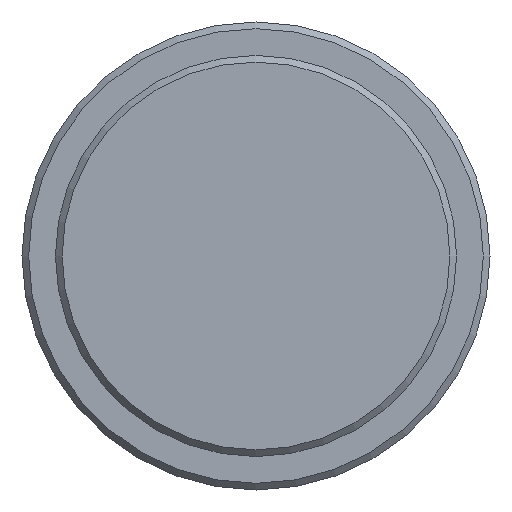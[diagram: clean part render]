
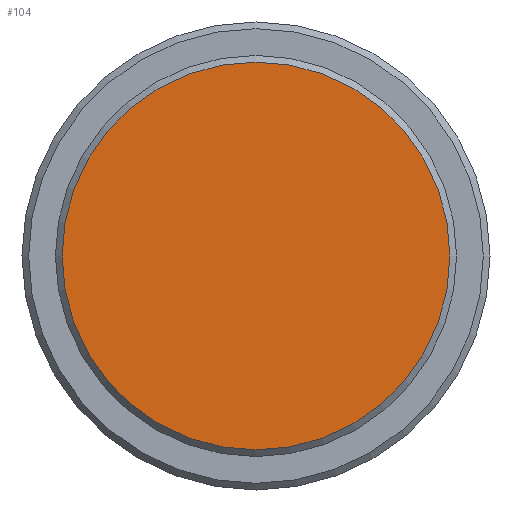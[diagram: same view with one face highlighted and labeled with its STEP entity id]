
A CAD part, front view. The second image highlights one B-rep face of the part: STEP entity #104.
In plain terms, the highlighted planar face has unit normal (0, -1, 0).
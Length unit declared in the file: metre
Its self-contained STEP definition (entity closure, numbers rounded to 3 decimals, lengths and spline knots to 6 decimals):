
#104 = ADVANCED_FACE( '', ( #187 ), #188, .T. );
#187 = FACE_OUTER_BOUND( '', #269, .T. );
#188 = PLANE( '', #270 );
#269 = EDGE_LOOP( '', ( #405 ) );
#270 = AXIS2_PLACEMENT_3D( '', #406, #407, #408 );
#405 = ORIENTED_EDGE( '', *, *, #435, .T. );
#406 = CARTESIAN_POINT( '', ( 0., -0.009, 0. ) );
#407 = DIRECTION( '', ( 0., -1., 0. ) );
#408 = DIRECTION( '', ( 0., 0., -1. ) );
#435 = EDGE_CURVE( '', #488, #488, #489, .T. );
#488 = VERTEX_POINT( '', #542 );
#489 = CIRCLE( '', #543, 0.0145 );
#542 = CARTESIAN_POINT( '', ( 0., -0.009, -0.0145 ) );
#543 = AXIS2_PLACEMENT_3D( '', #622, #623, #624 );
#622 = CARTESIAN_POINT( '', ( 0., -0.009, 0. ) );
#623 = DIRECTION( '', ( 0., -1., 0. ) );
#624 = DIRECTION( '', ( 0., 0., -1. ) );
